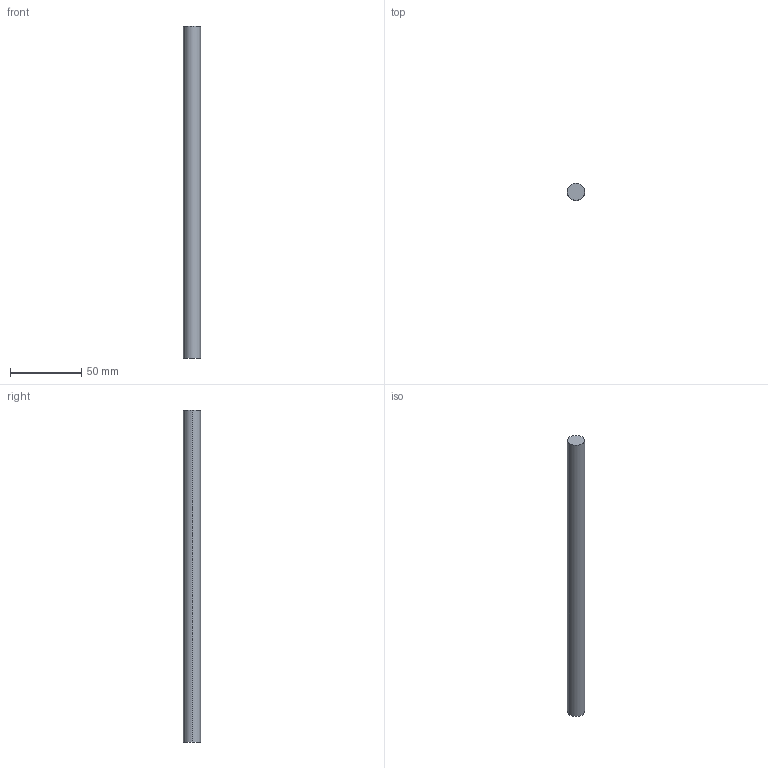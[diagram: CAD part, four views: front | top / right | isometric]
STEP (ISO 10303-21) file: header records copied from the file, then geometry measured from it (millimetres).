
FILE_DESCRIPTION (( 'STEP AP214' ), '1' );
FILE_NAME ('Innenschub H182 - S18_S19 - 350.step', '2010-09-07T14:56:01', ( 'grass' ), ( '' ), 'SwSTEP 2.0', 'SolidWorks 2010', '' );
FILE_SCHEMA (( 'AUTOMOTIVE_DESIGN' ));
Length unit declared in the file: millimetre
Products named in the file (1): Innenschub H182 - S18_S19 - 350
Bounding box: 12 x 12 x 233 mm (x, y, z)
Volume: 26351.7 mm3; surface area: 9010.1 mm2
Topology: 1 solids, 1 shells, 4 faces, 6 edges, 4 vertices
Faces by surface type: cylinder 2, plane 2
Entity records: 128 total; most frequent: DIRECTION 20, CARTESIAN_POINT 15, ORIENTED_EDGE 12, AXIS2_PLACEMENT_3D 9, EDGE_CURVE 6, EDGE_LOOP 4, FACE_OUTER_BOUND 4, CIRCLE 4
